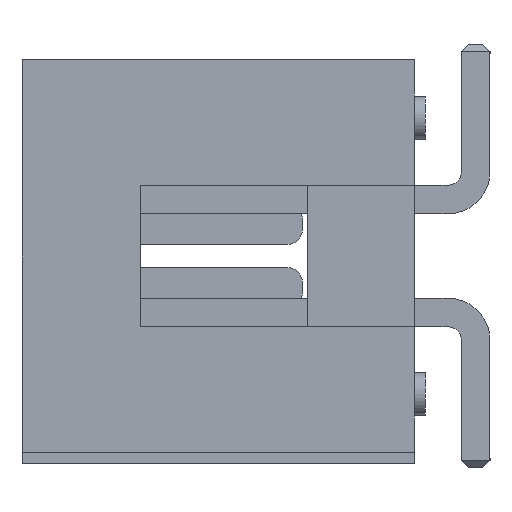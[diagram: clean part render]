
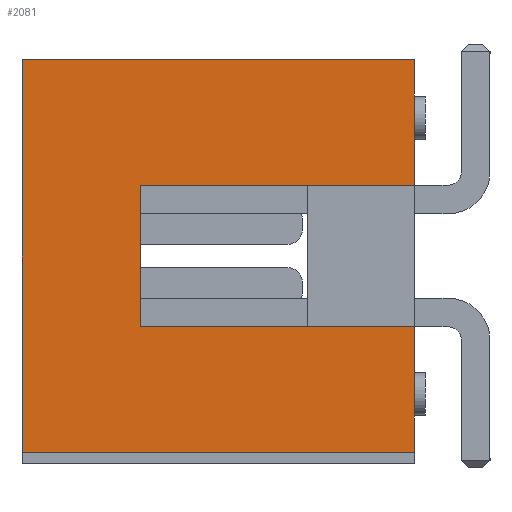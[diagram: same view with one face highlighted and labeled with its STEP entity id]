
A CAD part, left-side view. The second image highlights one B-rep face of the part: STEP entity #2081.
In plain terms, the highlighted planar face has unit normal (-1, 0, 0).
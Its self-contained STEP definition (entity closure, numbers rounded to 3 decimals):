
#189 = CARTESIAN_POINT ( 'NONE',  ( -12.69, 1.73, 8.8 ) ) ;
#272 = DIRECTION ( 'NONE',  ( 0., -1., 0. ) ) ;
#287 = DIRECTION ( 'NONE',  ( 0., 0., 1. ) ) ;
#300 = CARTESIAN_POINT ( 'NONE',  ( -12.69, -4.4, 2.81 ) ) ;
#390 = VECTOR ( 'NONE', #287, 1000. ) ;
#433 = CARTESIAN_POINT ( 'NONE',  ( -12.69, 4.4, 8.8 ) ) ;
#434 = ORIENTED_EDGE ( 'NONE', *, *, #3914, .T. ) ;
#440 = VERTEX_POINT ( 'NONE', #2556 ) ;
#487 = CARTESIAN_POINT ( 'NONE',  ( -12.69, -4.4, 8.8 ) ) ;
#521 = VERTEX_POINT ( 'NONE', #1726 ) ;
#608 = ORIENTED_EDGE ( 'NONE', *, *, #3294, .F. ) ;
#654 = VECTOR ( 'NONE', #272, 1000. ) ;
#655 = PLANE ( 'NONE',  #4651 ) ;
#976 = DIRECTION ( 'NONE',  ( 0., 0., 1. ) ) ;
#980 = EDGE_CURVE ( 'NONE', #2068, #1373, #4390, .T. ) ;
#1194 = LINE ( 'NONE', #2812, #3639 ) ;
#1244 = VECTOR ( 'NONE', #976, 1000. ) ;
#1373 = VERTEX_POINT ( 'NONE', #2475 ) ;
#1543 = LINE ( 'NONE', #5181, #390 ) ;
#1545 = EDGE_CURVE ( 'NONE', #1373, #3521, #2226, .T. ) ;
#1554 = EDGE_LOOP ( 'NONE', ( #3819, #3968, #5073, #4458, #434, #2235, #608, #2449 ) ) ;
#1612 = VERTEX_POINT ( 'NONE', #3534 ) ;
#1669 = LINE ( 'NONE', #4130, #1816 ) ;
#1726 = CARTESIAN_POINT ( 'NONE',  ( -12.69, -4.4, 5.99 ) ) ;
#1809 = FACE_OUTER_BOUND ( 'NONE', #1554, .T. ) ;
#1816 = VECTOR ( 'NONE', #4829, 1000. ) ;
#1875 = EDGE_CURVE ( 'NONE', #521, #1612, #1669, .T. ) ;
#1881 = VERTEX_POINT ( 'NONE', #3301 ) ;
#2030 = LINE ( 'NONE', #487, #2093 ) ;
#2068 = VERTEX_POINT ( 'NONE', #2301 ) ;
#2081 = ADVANCED_FACE ( 'NONE', ( #1809 ), #655, .F. ) ;
#2093 = VECTOR ( 'NONE', #2887, 1000. ) ;
#2226 = LINE ( 'NONE', #4166, #1244 ) ;
#2235 = ORIENTED_EDGE ( 'NONE', *, *, #3237, .F. ) ;
#2301 = CARTESIAN_POINT ( 'NONE',  ( -12.69, -4.4, 0. ) ) ;
#2449 = ORIENTED_EDGE ( 'NONE', *, *, #1875, .F. ) ;
#2475 = CARTESIAN_POINT ( 'NONE',  ( -12.69, 4.4, 0. ) ) ;
#2556 = CARTESIAN_POINT ( 'NONE',  ( -12.69, -4.4, 8.8 ) ) ;
#2618 = DIRECTION ( 'NONE',  ( 0., 1., 0. ) ) ;
#2731 = DIRECTION ( 'NONE',  ( 0., 0., -1. ) ) ;
#2812 = CARTESIAN_POINT ( 'NONE',  ( -12.69, -4.4, -0.25 ) ) ;
#2887 = DIRECTION ( 'NONE',  ( 0., -1., 0. ) ) ;
#2912 = EDGE_CURVE ( 'NONE', #3521, #440, #2030, .T. ) ;
#3012 = VECTOR ( 'NONE', #2618, 1000. ) ;
#3049 = DIRECTION ( 'NONE',  ( 0., 0., -1. ) ) ;
#3097 = LINE ( 'NONE', #300, #654 ) ;
#3104 = VERTEX_POINT ( 'NONE', #3792 ) ;
#3159 = CARTESIAN_POINT ( 'NONE',  ( -12.69, -4.4, 0. ) ) ;
#3237 = EDGE_CURVE ( 'NONE', #1881, #3104, #3097, .T. ) ;
#3294 = EDGE_CURVE ( 'NONE', #1612, #1881, #3411, .T. ) ;
#3301 = CARTESIAN_POINT ( 'NONE',  ( -12.69, 1.73, 2.81 ) ) ;
#3411 = LINE ( 'NONE', #189, #4236 ) ;
#3521 = VERTEX_POINT ( 'NONE', #433 ) ;
#3534 = CARTESIAN_POINT ( 'NONE',  ( -12.69, 1.73, 5.99 ) ) ;
#3639 = VECTOR ( 'NONE', #4445, 1000. ) ;
#3792 = CARTESIAN_POINT ( 'NONE',  ( -12.69, -4.4, 2.81 ) ) ;
#3819 = ORIENTED_EDGE ( 'NONE', *, *, #5038, .T. ) ;
#3914 = EDGE_CURVE ( 'NONE', #2068, #3104, #1543, .T. ) ;
#3968 = ORIENTED_EDGE ( 'NONE', *, *, #2912, .F. ) ;
#4130 = CARTESIAN_POINT ( 'NONE',  ( -12.69, -4.4, 5.99 ) ) ;
#4166 = CARTESIAN_POINT ( 'NONE',  ( -12.69, 4.4, 8.8 ) ) ;
#4236 = VECTOR ( 'NONE', #3049, 1000. ) ;
#4313 = DIRECTION ( 'NONE',  ( 1., 0., 0. ) ) ;
#4390 = LINE ( 'NONE', #3159, #3012 ) ;
#4445 = DIRECTION ( 'NONE',  ( 0., 0., 1. ) ) ;
#4458 = ORIENTED_EDGE ( 'NONE', *, *, #980, .F. ) ;
#4651 = AXIS2_PLACEMENT_3D ( 'NONE', #4771, #4313, #2731 ) ;
#4771 = CARTESIAN_POINT ( 'NONE',  ( -12.69, -4.4, 8.8 ) ) ;
#4829 = DIRECTION ( 'NONE',  ( 0., 1., 0. ) ) ;
#5038 = EDGE_CURVE ( 'NONE', #521, #440, #1194, .T. ) ;
#5073 = ORIENTED_EDGE ( 'NONE', *, *, #1545, .F. ) ;
#5181 = CARTESIAN_POINT ( 'NONE',  ( -12.69, -4.4, -0.25 ) ) ;
